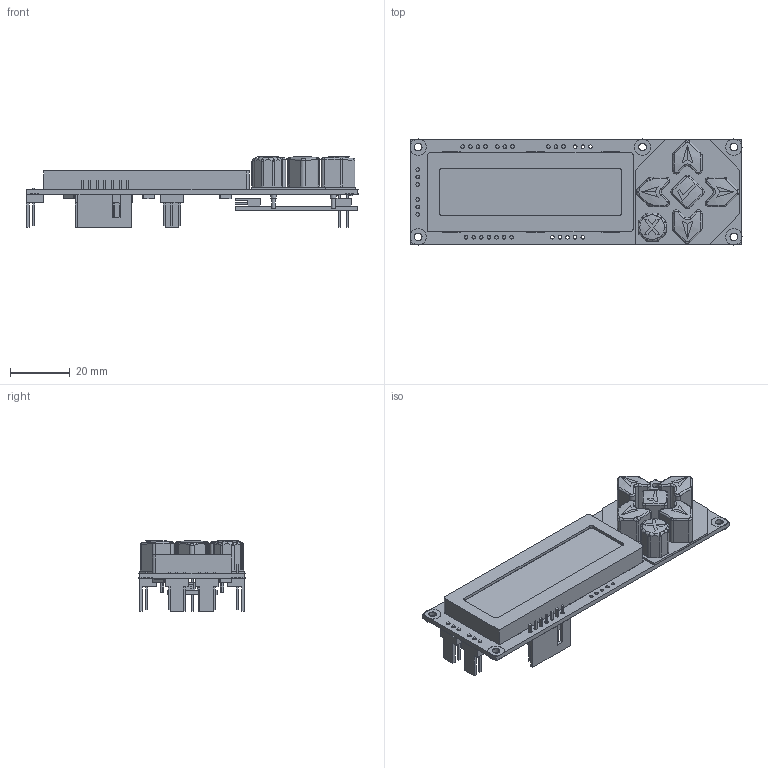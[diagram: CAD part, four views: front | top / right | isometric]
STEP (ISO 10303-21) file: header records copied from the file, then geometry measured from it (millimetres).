
FILE_DESCRIPTION((''),'2;1');
FILE_NAME('CFA_633_ASM','2005-02-28T',('Administrator'),(''),'PRO/ENGINEER BY PARAMETRIC TECHNOLOGY CORPORATION, 2002220','PRO/ENGINEER BY PARAMETRIC TECHNOLOGY CORPORATION, 2002220','');
FILE_SCHEMA(('CONFIG_CONTROL_DESIGN'));
Products named in the file (16): MAIN_PCB_AF0; KEYPAD; RS_232_HEADER; RS_232_HEADER_ASM; BEZEL; SCREEN; POWER_CONNECTOR; FAN_1; USB_ADAPTOR; FLAT_4P_HEADER; USB_ADAPTOR_ASM; 7P_HEADER; FAN_2; FAN_3; FAN_4; CFA_633_ASM
Assembly tree (19 placements, depth 3):
  CFA_633_ASM
    MAIN_PCB_AF0
    KEYPAD
    RS_232_HEADER_ASM
      RS_232_HEADER  x5
    BEZEL
    SCREEN
    POWER_CONNECTOR
    FAN_1
    USB_ADAPTOR_ASM
      USB_ADAPTOR
      FLAT_4P_HEADER
    7P_HEADER
    FAN_2
    FAN_3
    FAN_4
Bounding box: 111 x 35.5 x 23.7 mm (x, y, z)
Volume: 24376.9 mm3; surface area: 25381.6 mm2
Topology: 17 solids, 43 shells, 987 faces, 2469 edges, 1637 vertices
Faces by surface type: plane 652, cylinder 237, bspline 81, sphere 11, cone 6
Entity records: 29089 total; most frequent: CARTESIAN_POINT 8225, ORIENTED_EDGE 4200, DIRECTION 4042, EDGE_CURVE 2133, VECTOR 1462, LINE 1462, VERTEX_POINT 1413, AXIS2_PLACEMENT_3D 1290
